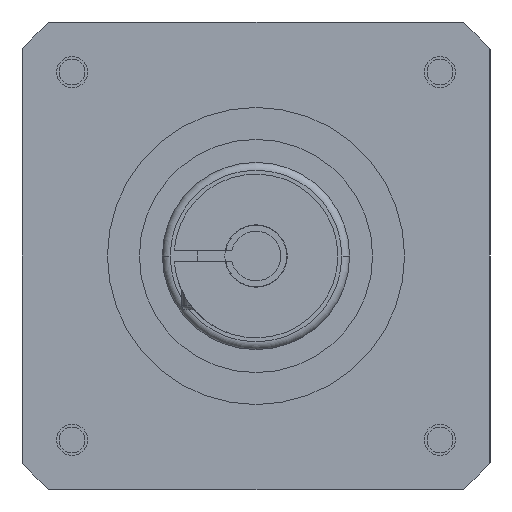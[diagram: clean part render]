
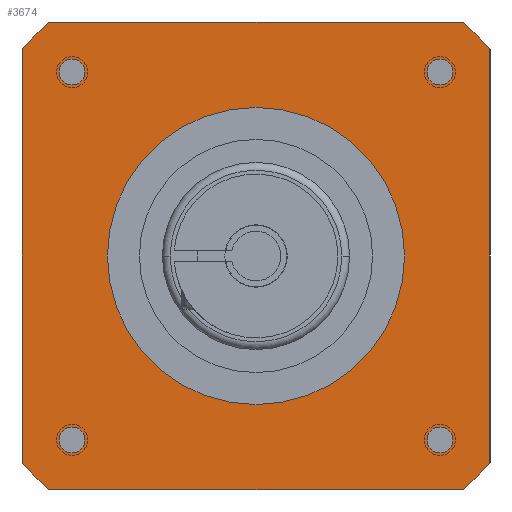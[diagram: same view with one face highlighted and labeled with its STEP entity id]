
A CAD part, left-side view. The second image highlights one B-rep face of the part: STEP entity #3674.
In plain terms, the highlighted planar face has unit normal (-1, 0, 0).
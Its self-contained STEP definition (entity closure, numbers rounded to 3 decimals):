
#806=CARTESIAN_POINT('',(0.,0.,0.));
#807=DIRECTION('',(-1.,0.,0.));
#808=DIRECTION('',(0.,-0.75,0.661));
#809=AXIS2_PLACEMENT_3D('',#806,#807,#808);
#811=DIRECTION('',(0.,0.,1.));
#812=VECTOR('',#811,52.915);
#813=CARTESIAN_POINT('',(0.,-30.,-26.458));
#814=LINE('',#813,#812);
#815=CARTESIAN_POINT('',(0.,0.,0.));
#816=DIRECTION('',(-1.,0.,0.));
#817=DIRECTION('',(0.,-0.661,-0.75));
#818=AXIS2_PLACEMENT_3D('',#815,#816,#817);
#820=DIRECTION('',(0.,-1.,0.));
#821=VECTOR('',#820,52.915);
#822=CARTESIAN_POINT('',(0.,26.458,-30.));
#823=LINE('',#822,#821);
#824=CARTESIAN_POINT('',(0.,0.,0.));
#825=DIRECTION('',(-1.,0.,0.));
#826=DIRECTION('',(0.,0.75,-0.661));
#827=AXIS2_PLACEMENT_3D('',#824,#825,#826);
#829=DIRECTION('',(0.,0.,-1.));
#830=VECTOR('',#829,52.915);
#831=CARTESIAN_POINT('',(0.,30.,26.458));
#832=LINE('',#831,#830);
#833=CARTESIAN_POINT('',(0.,0.,0.));
#834=DIRECTION('',(-1.,0.,0.));
#835=DIRECTION('',(0.,0.661,0.75));
#836=AXIS2_PLACEMENT_3D('',#833,#834,#835);
#838=DIRECTION('',(0.,1.,0.));
#839=VECTOR('',#838,52.915);
#840=CARTESIAN_POINT('',(0.,-26.458,30.));
#841=LINE('',#840,#839);
#842=CARTESIAN_POINT('',(0.,0.,0.));
#843=DIRECTION('',(1.,0.,0.));
#844=DIRECTION('',(0.,-1.,0.));
#845=AXIS2_PLACEMENT_3D('',#842,#843,#844);
#847=CARTESIAN_POINT('',(0.,0.,0.));
#848=DIRECTION('',(1.,0.,0.));
#849=DIRECTION('',(0.,1.,0.));
#850=AXIS2_PLACEMENT_3D('',#847,#848,#849);
#852=CARTESIAN_POINT('',(0.,-23.582,23.582));
#853=DIRECTION('',(-1.,0.,0.));
#854=DIRECTION('',(0.,0.,-1.));
#855=AXIS2_PLACEMENT_3D('',#852,#853,#854);
#857=CARTESIAN_POINT('',(0.,-23.582,23.582));
#858=DIRECTION('',(-1.,0.,0.));
#859=DIRECTION('',(0.,0.,1.));
#860=AXIS2_PLACEMENT_3D('',#857,#858,#859);
#862=CARTESIAN_POINT('',(0.,-23.582,-23.582));
#863=DIRECTION('',(-1.,0.,0.));
#864=DIRECTION('',(0.,0.,-1.));
#865=AXIS2_PLACEMENT_3D('',#862,#863,#864);
#867=CARTESIAN_POINT('',(0.,-23.582,-23.582));
#868=DIRECTION('',(-1.,0.,0.));
#869=DIRECTION('',(0.,0.,1.));
#870=AXIS2_PLACEMENT_3D('',#867,#868,#869);
#872=CARTESIAN_POINT('',(0.,23.582,-23.582));
#873=DIRECTION('',(-1.,0.,0.));
#874=DIRECTION('',(0.,0.,-1.));
#875=AXIS2_PLACEMENT_3D('',#872,#873,#874);
#877=CARTESIAN_POINT('',(0.,23.582,-23.582));
#878=DIRECTION('',(-1.,0.,0.));
#879=DIRECTION('',(0.,0.,1.));
#880=AXIS2_PLACEMENT_3D('',#877,#878,#879);
#882=CARTESIAN_POINT('',(0.,23.582,23.582));
#883=DIRECTION('',(-1.,0.,0.));
#884=DIRECTION('',(0.,0.,-1.));
#885=AXIS2_PLACEMENT_3D('',#882,#883,#884);
#887=CARTESIAN_POINT('',(0.,23.582,23.582));
#888=DIRECTION('',(-1.,0.,0.));
#889=DIRECTION('',(0.,0.,1.));
#890=AXIS2_PLACEMENT_3D('',#887,#888,#889);
#2170=CARTESIAN_POINT('',(0.,-30.,26.458));
#2171=CARTESIAN_POINT('',(0.,-26.458,30.));
#2172=VERTEX_POINT('',#2170);
#2173=VERTEX_POINT('',#2171);
#2174=CARTESIAN_POINT('',(0.,26.458,30.));
#2175=VERTEX_POINT('',#2174);
#2176=CARTESIAN_POINT('',(0.,30.,26.458));
#2177=VERTEX_POINT('',#2176);
#2178=CARTESIAN_POINT('',(0.,30.,-26.458));
#2179=VERTEX_POINT('',#2178);
#2180=CARTESIAN_POINT('',(0.,26.458,-30.));
#2181=VERTEX_POINT('',#2180);
#2182=CARTESIAN_POINT('',(0.,-26.458,-30.));
#2183=VERTEX_POINT('',#2182);
#2184=CARTESIAN_POINT('',(0.,-30.,-26.458));
#2185=VERTEX_POINT('',#2184);
#2202=CARTESIAN_POINT('',(0.,-19.05,0.));
#2203=CARTESIAN_POINT('',(0.,19.05,0.));
#2204=VERTEX_POINT('',#2202);
#2205=VERTEX_POINT('',#2203);
#2222=CARTESIAN_POINT('',(0.,-23.582,21.932));
#2223=CARTESIAN_POINT('',(0.,-23.582,25.232));
#2224=VERTEX_POINT('',#2222);
#2225=VERTEX_POINT('',#2223);
#2226=CARTESIAN_POINT('',(0.,-23.582,-25.232));
#2227=CARTESIAN_POINT('',(0.,-23.582,-21.932));
#2228=VERTEX_POINT('',#2226);
#2229=VERTEX_POINT('',#2227);
#2230=CARTESIAN_POINT('',(0.,23.582,-25.232));
#2231=CARTESIAN_POINT('',(0.,23.582,-21.932));
#2232=VERTEX_POINT('',#2230);
#2233=VERTEX_POINT('',#2231);
#2234=CARTESIAN_POINT('',(0.,23.582,21.932));
#2235=CARTESIAN_POINT('',(0.,23.582,25.232));
#2236=VERTEX_POINT('',#2234);
#2237=VERTEX_POINT('',#2235);
#3629=CARTESIAN_POINT('',(0.,0.,0.));
#3630=DIRECTION('',(-1.,0.,0.));
#3631=DIRECTION('',(0.,0.,-1.));
#3632=AXIS2_PLACEMENT_3D('',#3629,#3630,#3631);
#3633=PLANE('',#3632);
#3634=ORIENTED_EDGE('',*,*,#3519,.F.);
#3635=ORIENTED_EDGE('',*,*,#3534,.F.);
#3636=ORIENTED_EDGE('',*,*,#3548,.F.);
#3637=ORIENTED_EDGE('',*,*,#3562,.F.);
#3638=ORIENTED_EDGE('',*,*,#3582,.F.);
#3639=ORIENTED_EDGE('',*,*,#3596,.F.);
#3640=ORIENTED_EDGE('',*,*,#3610,.F.);
#3641=ORIENTED_EDGE('',*,*,#3623,.F.);
#3642=EDGE_LOOP('',(#3634,#3635,#3636,#3637,#3638,#3639,#3640,#3641));
#3643=FACE_OUTER_BOUND('',#3642,.F.);
#3645=ORIENTED_EDGE('',*,*,#3644,.F.);
#3647=ORIENTED_EDGE('',*,*,#3646,.F.);
#3648=EDGE_LOOP('',(#3645,#3647));
#3649=FACE_BOUND('',#3648,.F.);
#3651=ORIENTED_EDGE('',*,*,#3650,.T.);
#3653=ORIENTED_EDGE('',*,*,#3652,.T.);
#3654=EDGE_LOOP('',(#3651,#3653));
#3655=FACE_BOUND('',#3654,.F.);
#3657=ORIENTED_EDGE('',*,*,#3656,.T.);
#3659=ORIENTED_EDGE('',*,*,#3658,.T.);
#3660=EDGE_LOOP('',(#3657,#3659));
#3661=FACE_BOUND('',#3660,.F.);
#3663=ORIENTED_EDGE('',*,*,#3662,.T.);
#3665=ORIENTED_EDGE('',*,*,#3664,.T.);
#3666=EDGE_LOOP('',(#3663,#3665));
#3667=FACE_BOUND('',#3666,.F.);
#3669=ORIENTED_EDGE('',*,*,#3668,.T.);
#3671=ORIENTED_EDGE('',*,*,#3670,.T.);
#3672=EDGE_LOOP('',(#3669,#3671));
#3673=FACE_BOUND('',#3672,.F.);
#810=CIRCLE('',#809,40.);
#819=CIRCLE('',#818,40.);
#828=CIRCLE('',#827,40.);
#837=CIRCLE('',#836,40.);
#846=CIRCLE('',#845,19.05);
#851=CIRCLE('',#850,19.05);
#856=CIRCLE('',#855,1.65);
#861=CIRCLE('',#860,1.65);
#866=CIRCLE('',#865,1.65);
#871=CIRCLE('',#870,1.65);
#876=CIRCLE('',#875,1.65);
#881=CIRCLE('',#880,1.65);
#886=CIRCLE('',#885,1.65);
#891=CIRCLE('',#890,1.65);
#3519=EDGE_CURVE('',#2172,#2173,#810,.T.);
#3534=EDGE_CURVE('',#2185,#2172,#814,.T.);
#3548=EDGE_CURVE('',#2183,#2185,#819,.T.);
#3562=EDGE_CURVE('',#2181,#2183,#823,.T.);
#3582=EDGE_CURVE('',#2179,#2181,#828,.T.);
#3596=EDGE_CURVE('',#2177,#2179,#832,.T.);
#3610=EDGE_CURVE('',#2175,#2177,#837,.T.);
#3623=EDGE_CURVE('',#2173,#2175,#841,.T.);
#3644=EDGE_CURVE('',#2204,#2205,#846,.T.);
#3646=EDGE_CURVE('',#2205,#2204,#851,.T.);
#3650=EDGE_CURVE('',#2224,#2225,#856,.T.);
#3652=EDGE_CURVE('',#2225,#2224,#861,.T.);
#3656=EDGE_CURVE('',#2228,#2229,#866,.T.);
#3658=EDGE_CURVE('',#2229,#2228,#871,.T.);
#3662=EDGE_CURVE('',#2232,#2233,#876,.T.);
#3664=EDGE_CURVE('',#2233,#2232,#881,.T.);
#3668=EDGE_CURVE('',#2236,#2237,#886,.T.);
#3670=EDGE_CURVE('',#2237,#2236,#891,.T.);
#3674=ADVANCED_FACE('',(#3643,#3649,#3655,#3661,#3667,#3673),#3633,.T.);
